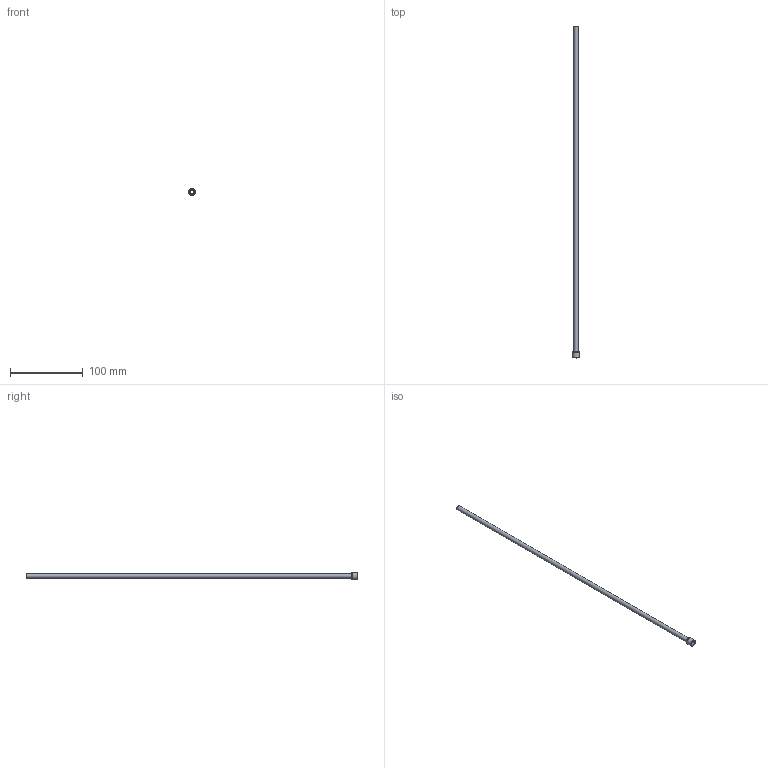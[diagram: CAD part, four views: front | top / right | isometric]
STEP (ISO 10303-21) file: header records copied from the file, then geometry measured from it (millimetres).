
FILE_DESCRIPTION(/* description */ (''),/* implementation_level */ '2;1');
FILE_NAME(/* name */ 'C:/Users/drich/Desktop/JHF250T-18 v1.step',/* time_stamp */ '2020-01-02T20:01:29-06:00',/* author */ (''),/* organization */ (''),/* preprocessor_version */ 'ST-DEVELOPER v18',/* originating_system */ 'Autodesk Translation Framework v8.12.0.6',/* authorisation */ '');
FILE_SCHEMA (('AUTOMOTIVE_DESIGN { 1 0 10303 214 3 1 1 }'));
Length unit declared in the file: inch
Products named in the file (1): JHF250T-18
Bounding box: 9.58 x 457.2 x 9.58 mm (x, y, z)
Volume: 2572.5 mm3; surface area: 17679.7 mm2
Topology: 1 solids, 1 shells, 10 faces, 24 edges, 18 vertices
Faces by surface type: cylinder 4, plane 4, cone 1, torus 1
Full cylindrical faces by diameter (mm): 5.842 x1, 6.35 x1, 9.434 x1, 9.576 x1
Entity records: 354 total; most frequent: DIRECTION 65, CARTESIAN_POINT 53, ORIENTED_EDGE 48, AXIS2_PLACEMENT_3D 30, EDGE_CURVE 24, CIRCLE 19, VERTEX_POINT 18, EDGE_LOOP 14
